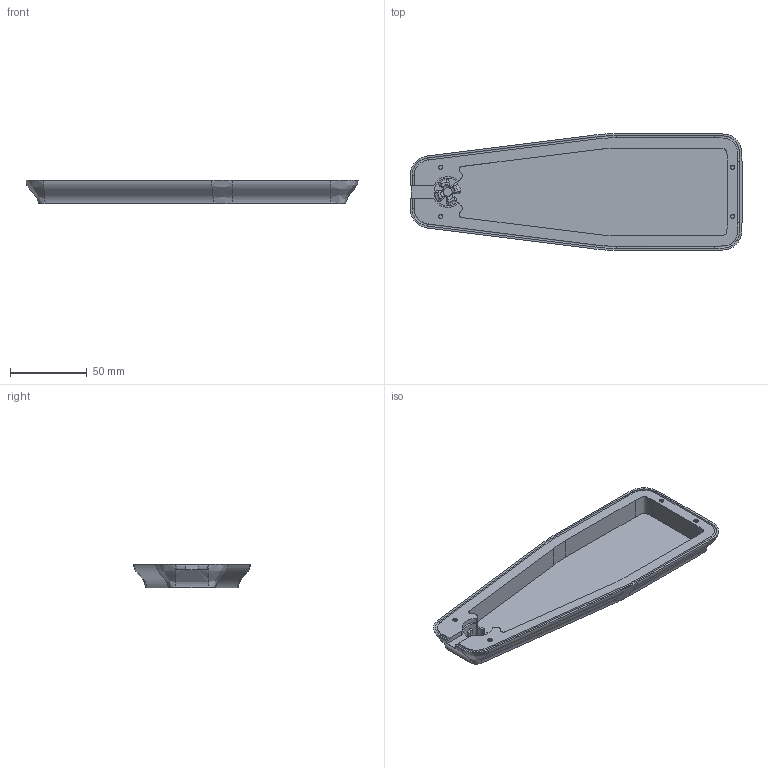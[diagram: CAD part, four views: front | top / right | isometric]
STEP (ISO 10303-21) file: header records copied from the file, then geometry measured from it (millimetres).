
FILE_DESCRIPTION(/* description */ (''),/* implementation_level */ '2;1');
FILE_NAME(/* name */ 'HUMIDIFIER.step',/* time_stamp */ '2024-02-28T17:26:38Z',/* author */ (''),/* organization */ (''),/* preprocessor_version */ 'ST-DEVELOPER v20',/* originating_system */ 'Autodesk Translation Framework v12.20.1.177',/* authorisation */ '');
FILE_SCHEMA (('AUTOMOTIVE_DESIGN { 1 0 10303 214 3 1 1 }'));
Length unit declared in the file: millimetre
Products named in the file (1): HUMIDIFIER
Bounding box: 216 x 76 x 15 mm (x, y, z)
Volume: 61227.2 mm3; surface area: 41697.2 mm2
Topology: 1 solids, 1 shells, 257 faces, 727 edges, 480 vertices
Faces by surface type: cylinder 174, bspline 40, plane 31, torus 12
Full cylindrical faces by diameter (mm): 2.529 x28, 3.086 x16
Entity records: 18671 total; most frequent: CARTESIAN_POINT 12661, ORIENTED_EDGE 1454, DIRECTION 955, EDGE_CURVE 727, VERTEX_POINT 480, AXIS2_PLACEMENT_3D 354, B_SPLINE_CURVE_WITH_KNOTS 332, EDGE_LOOP 265
